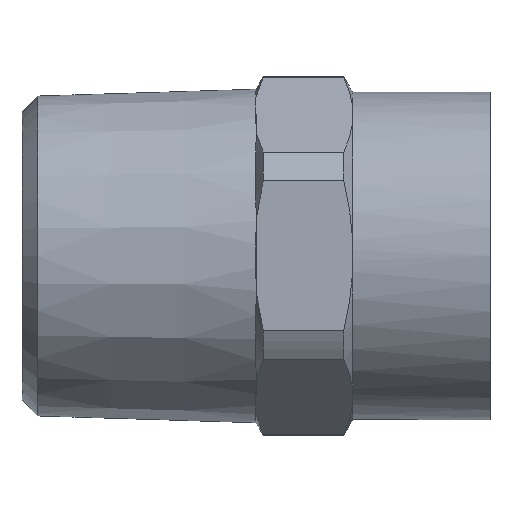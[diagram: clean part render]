
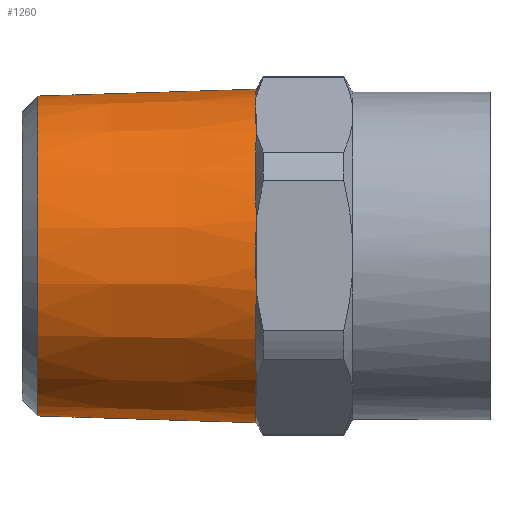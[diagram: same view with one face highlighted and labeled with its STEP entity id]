
A CAD part, top view. The second image highlights one B-rep face of the part: STEP entity #1260.
In plain terms, the highlighted conical face has half-angle 1.79 degrees and reference radius 10.454 mm.
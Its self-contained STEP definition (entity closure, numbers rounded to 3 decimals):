
#198=CARTESIAN_POINT('',(15.0,-7.927,7.171));
#199=VERTEX_POINT('',#198);
#200=CARTESIAN_POINT('',(15.,-10.173,3.279));
#201=VERTEX_POINT('',#200);
#202=CARTESIAN_POINT('',(15.,0.0,0.0));
#203=DIRECTION('',(1.0,0.0,0.0));
#204=DIRECTION('',(0.0,1.0,0.0));
#205=AXIS2_PLACEMENT_3D('',#202,#203,#204);
#206=CIRCLE('',#205,10.689);
#207=EDGE_CURVE('',#199,#201,#206,.T.);
#223=CARTESIAN_POINT('',(15.,-10.173,-3.279));
#224=VERTEX_POINT('',#223);
#225=CARTESIAN_POINT('',(15.0,-7.927,-7.171));
#226=VERTEX_POINT('',#225);
#227=CARTESIAN_POINT('',(15.,0.0,0.0));
#228=DIRECTION('',(1.0,0.0,0.0));
#229=DIRECTION('',(0.0,1.0,0.0));
#230=AXIS2_PLACEMENT_3D('',#227,#228,#229);
#231=CIRCLE('',#230,10.689);
#232=EDGE_CURVE('',#224,#226,#231,.T.);
#248=CARTESIAN_POINT('',(15.0,-2.247,-10.45));
#249=VERTEX_POINT('',#248);
#250=CARTESIAN_POINT('',(15.0,2.247,-10.45));
#251=VERTEX_POINT('',#250);
#252=CARTESIAN_POINT('',(15.,0.0,0.0));
#253=DIRECTION('',(1.0,0.0,0.0));
#254=DIRECTION('',(0.0,1.0,0.0));
#255=AXIS2_PLACEMENT_3D('',#252,#253,#254);
#256=CIRCLE('',#255,10.689);
#257=EDGE_CURVE('',#249,#251,#256,.T.);
#273=CARTESIAN_POINT('',(15.,7.927,-7.171));
#274=VERTEX_POINT('',#273);
#275=CARTESIAN_POINT('',(15.,10.173,-3.279));
#276=VERTEX_POINT('',#275);
#277=CARTESIAN_POINT('',(15.,0.0,0.0));
#278=DIRECTION('',(1.0,0.0,0.0));
#279=DIRECTION('',(0.0,1.0,0.0));
#280=AXIS2_PLACEMENT_3D('',#277,#278,#279);
#281=CIRCLE('',#280,10.689);
#282=EDGE_CURVE('',#274,#276,#281,.T.);
#321=CARTESIAN_POINT('',(15.,10.173,3.279));
#322=VERTEX_POINT('',#321);
#336=CARTESIAN_POINT('',(15.0,7.927,7.171));
#337=VERTEX_POINT('',#336);
#717=CARTESIAN_POINT('',(15.,0.0,0.0));
#718=DIRECTION('',(1.0,0.0,0.0));
#719=DIRECTION('',(0.0,1.0,0.0));
#720=AXIS2_PLACEMENT_3D('',#717,#718,#719);
#721=CIRCLE('',#720,10.689);
#722=EDGE_CURVE('',#322,#337,#721,.T.);
#1015=CARTESIAN_POINT('',(15.0,-2.247,10.45));
#1016=VERTEX_POINT('',#1015);
#1030=CARTESIAN_POINT('',(15.,0.0,0.0));
#1031=DIRECTION('',(1.0,0.0,0.0));
#1032=DIRECTION('',(0.0,1.0,0.0));
#1033=AXIS2_PLACEMENT_3D('',#1030,#1031,#1032);
#1034=CIRCLE('',#1033,10.689);
#1035=EDGE_CURVE('',#1016,#199,#1034,.T.);
#1048=CARTESIAN_POINT('',(15.,0.0,0.0));
#1049=DIRECTION('',(1.0,0.0,0.0));
#1050=DIRECTION('',(0.0,1.0,0.0));
#1051=AXIS2_PLACEMENT_3D('',#1048,#1049,#1050);
#1052=CIRCLE('',#1051,10.689);
#1053=EDGE_CURVE('',#201,#224,#1052,.T.);
#1066=CARTESIAN_POINT('',(15.,0.0,0.0));
#1067=DIRECTION('',(1.0,0.0,0.0));
#1068=DIRECTION('',(0.0,1.0,0.0));
#1069=AXIS2_PLACEMENT_3D('',#1066,#1067,#1068);
#1070=CIRCLE('',#1069,10.689);
#1071=EDGE_CURVE('',#226,#249,#1070,.T.);
#1084=CARTESIAN_POINT('',(15.,0.0,0.0));
#1085=DIRECTION('',(1.0,0.0,0.0));
#1086=DIRECTION('',(0.0,1.0,0.0));
#1087=AXIS2_PLACEMENT_3D('',#1084,#1085,#1086);
#1088=CIRCLE('',#1087,10.689);
#1089=EDGE_CURVE('',#251,#274,#1088,.T.);
#1100=CARTESIAN_POINT('',(15.0,2.247,10.45));
#1101=VERTEX_POINT('',#1100);
#1102=CARTESIAN_POINT('',(15.,0.0,0.0));
#1103=DIRECTION('',(1.0,0.0,0.0));
#1104=DIRECTION('',(0.0,1.0,0.0));
#1105=AXIS2_PLACEMENT_3D('',#1102,#1103,#1104);
#1106=CIRCLE('',#1105,10.689);
#1107=EDGE_CURVE('',#337,#1101,#1106,.T.);
#1173=CARTESIAN_POINT('',(15.,0.0,0.0));
#1174=DIRECTION('',(1.0,0.0,0.0));
#1175=DIRECTION('',(0.0,1.0,0.0));
#1176=AXIS2_PLACEMENT_3D('',#1173,#1174,#1175);
#1177=CIRCLE('',#1176,10.689);
#1178=EDGE_CURVE('',#1101,#1016,#1177,.T.);
#1200=CARTESIAN_POINT('',(1.,10.251,0.));
#1201=VERTEX_POINT('',#1200);
#1202=CARTESIAN_POINT('',(1.,0.0,0.));
#1203=DIRECTION('',(-1.0,0.0,0.0));
#1204=DIRECTION('',(0.0,-1.0,0.0));
#1205=AXIS2_PLACEMENT_3D('',#1202,#1203,#1204);
#1206=CIRCLE('',#1205,10.251);
#1207=EDGE_CURVE('',#1201,#1201,#1206,.T.);
#1232=CARTESIAN_POINT('',(7.5,0.0,0.0));
#1233=DIRECTION('',(1.0,0.0,0.0));
#1234=DIRECTION('',(0.0,1.0,0.0));
#1235=AXIS2_PLACEMENT_3D('',#1232,#1233,#1234);
#1236=CONICAL_SURFACE('',#1235,10.454,1.79);
#1237=ORIENTED_EDGE('',*,*,#1035,.F.);
#1238=ORIENTED_EDGE('',*,*,#1178,.F.);
#1239=ORIENTED_EDGE('',*,*,#1107,.F.);
#1240=ORIENTED_EDGE('',*,*,#722,.F.);
#1241=CARTESIAN_POINT('',(15.,0.0,0.0));
#1242=DIRECTION('',(1.0,0.0,0.0));
#1243=DIRECTION('',(0.0,1.0,0.0));
#1244=AXIS2_PLACEMENT_3D('',#1241,#1242,#1243);
#1245=CIRCLE('',#1244,10.689);
#1246=EDGE_CURVE('',#276,#322,#1245,.T.);
#1247=ORIENTED_EDGE('',*,*,#1246,.F.);
#1248=ORIENTED_EDGE('',*,*,#282,.F.);
#1249=ORIENTED_EDGE('',*,*,#1089,.F.);
#1250=ORIENTED_EDGE('',*,*,#257,.F.);
#1251=ORIENTED_EDGE('',*,*,#1071,.F.);
#1252=ORIENTED_EDGE('',*,*,#232,.F.);
#1253=ORIENTED_EDGE('',*,*,#1053,.F.);
#1254=ORIENTED_EDGE('',*,*,#207,.F.);
#1255=EDGE_LOOP('',(#1237,#1238,#1239,#1240,#1247,#1248,#1249,#1250,#1251,#1252,#1253,#1254));
#1256=FACE_OUTER_BOUND('',#1255,.T.);
#1257=ORIENTED_EDGE('',*,*,#1207,.F.);
#1258=EDGE_LOOP('',(#1257));
#1259=FACE_BOUND('',#1258,.T.);
#1260=ADVANCED_FACE('',(#1256,#1259),#1236,.T.);
